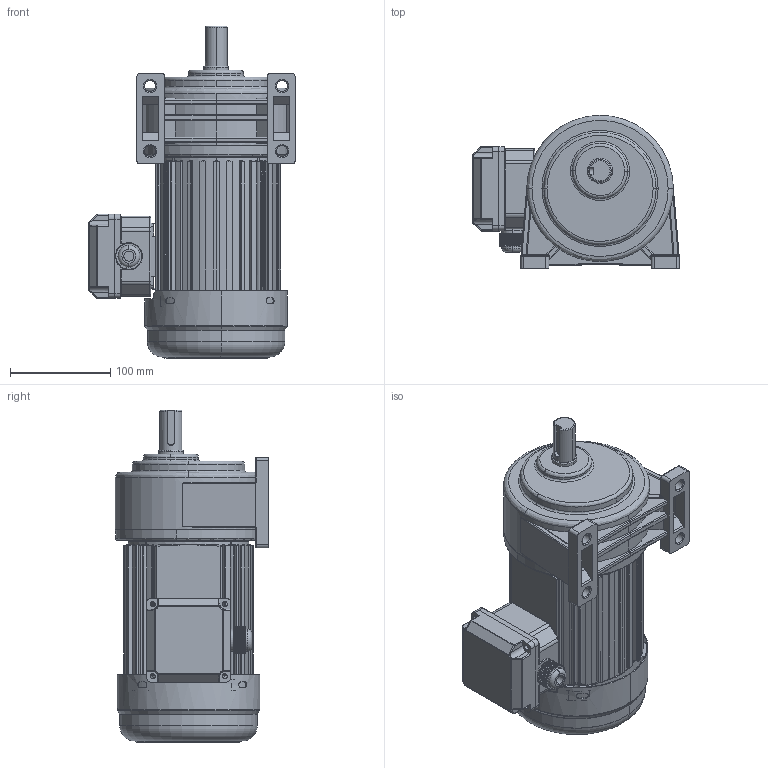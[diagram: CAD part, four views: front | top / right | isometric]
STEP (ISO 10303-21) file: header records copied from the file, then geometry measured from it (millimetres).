
FILE_DESCRIPTION (( 'STEP AP203' ), '1' );
FILE_NAME ('400W饜2#湍价陬拏宒.STEP', '2020-04-17T05:13:54', ( '' ), ( '' ), 'SwSTEP 2.0', 'SolidWorks 2019', '' );
FILE_SCHEMA (( 'CONFIG_CONTROL_DESIGN' ));
Length unit declared in the file: millimetre
Products named in the file (7): 400W价陬瑞欶; 諉芛; 400W饜2#湍价陬拏宒; 400W饜2#拏宒; 湍价陬諉盄碟裔; 蜊輛綴諉盄碟釱3; 400W棠憤迖殤
Assembly tree (6 placements, depth 2):
  400W饜2#湍价陬拏宒
    400W饜2#拏宒
    400W棠憤迖殤
    400W价陬瑞欶
    蜊輛綴諉盄碟釱3
    諉芛
    湍价陬諉盄碟裔
Bounding box: 206 x 153 x 331.5 mm (x, y, z)
Volume: 1997797.3 mm3; surface area: 522985.2 mm2
Topology: 8 solids, 8 shells, 2513 faces, 6600 edges, 4129 vertices
Faces by surface type: plane 836, cylinder 787, bspline 409, torus 255, cone 160, sphere 66
Entity records: 103779 total; most frequent: CARTESIAN_POINT 44112, ORIENTED_EDGE 13090, DIRECTION 11380, EDGE_CURVE 6545, AXIS2_PLACEMENT_3D 4230, VERTEX_POINT 4129, LINE 2920, VECTOR 2920
